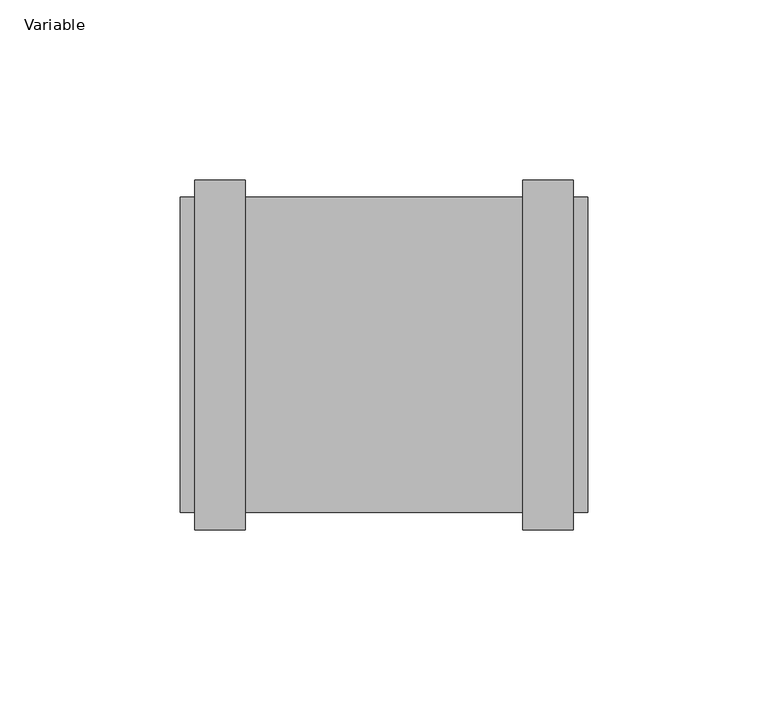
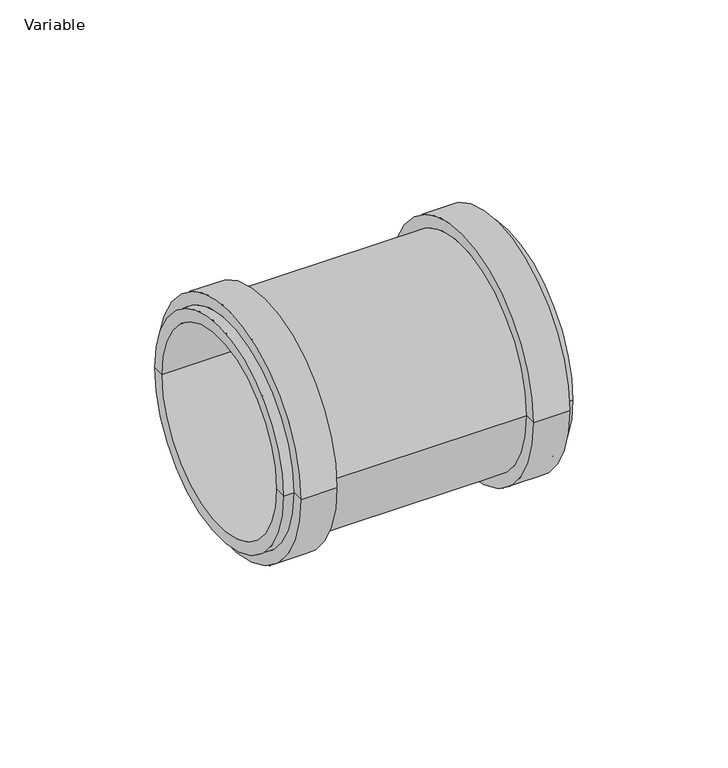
"""IFC4 building model written with IfcOpenShell, lengths in millimetres: pipe fitting geometry, AliaxisFR_Friaphon_SimpleCoupling_FR : Variable."""

from ifc_helpers import new_model, si_unit, frame, origin, place, context, project, spatial, polyline, circle_curve, source, transform, mapped, element, save
from ifc_brep_helpers import plane_surface, cylinder_surface, revolved_surface, advanced_brep


def variable_9afdab94(model_context):
    return source(origin(), model_context, "Body", "AdvancedBrep", [
        advanced_brep(
        [(58.5, -43.75, 0.0), (58.5, 43.75, 0.0), (58.5, 39.0, 0.0), (58.5, -39.0, 0.0), (54.5, -43.75, 0.0), (54.5, 43.75, 0.0), (54.5, -48.5, 0.0), (54.5, 48.5, 0.0), (40.5, -48.5, 0.0), (40.5, 48.5, 0.0), (40.5, -43.75, 0.0), (40.5, 43.75, 0.0), (-36.5, -43.75, 0.0), (-36.5, 43.75, 0.0), (-36.5, -48.5, 0.0), (-36.5, 48.5, 0.0), (-50.5, -48.5, 0.0), (-50.5, 48.5, 0.0), (-50.5, -43.75, 0.0), (-50.5, 43.75, 0.0), (-54.5, -43.75, 0.0), (-54.5, 43.75, 0.0), (-54.5, -39.0, 0.0), (-54.5, 39.0, 0.0)],
        [
            (0, 1, circle_curve(frame((58.5, 0.0, 0.0), z_axis=(1.0, 0.0, 0.0), x_axis=(0.0, 1.0, 0.0)), 43.75)),
            (1, 2),
            (2, 3, circle_curve(frame((58.5, 0.0, 0.0), z_axis=(-1.0, 0.0, 0.0), x_axis=(0.0, 1.0, 0.0)), 39.0)),
            (3, 0),
            (1, 0, circle_curve(frame((58.5, 0.0, 0.0), z_axis=(1.0, 0.0, 0.0), x_axis=(0.0, 1.0, 0.0)), 43.75)),
            (3, 2, circle_curve(frame((58.5, 0.0, 0.0), z_axis=(-1.0, 0.0, 0.0), x_axis=(0.0, 1.0, 0.0)), 39.0)),
            (4, 5, circle_curve(frame((54.5, 0.0, 0.0), z_axis=(1.0, 0.0, 0.0), x_axis=(0.0, 1.0, 0.0)), 43.75)),
            (5, 1),
            (0, 4),
            (5, 4, circle_curve(frame((54.5, 0.0, 0.0), z_axis=(1.0, 0.0, 0.0), x_axis=(0.0, 1.0, 0.0)), 43.75)),
            (6, 7, circle_curve(frame((54.5, 0.0, 0.0), z_axis=(1.0, 0.0, 0.0), x_axis=(0.0, 1.0, 0.0)), 48.5)),
            (7, 5),
            (4, 6),
            (7, 6, circle_curve(frame((54.5, 0.0, 0.0), z_axis=(1.0, 0.0, 0.0), x_axis=(0.0, 1.0, 0.0)), 48.5)),
            (8, 9, circle_curve(frame((40.5, 0.0, 0.0), z_axis=(1.0, 0.0, 0.0), x_axis=(0.0, 1.0, 0.0)), 48.5)),
            (9, 7),
            (6, 8),
            (9, 8, circle_curve(frame((40.5, 0.0, 0.0), z_axis=(1.0, 0.0, 0.0), x_axis=(0.0, 1.0, 0.0)), 48.5)),
            (10, 11, circle_curve(frame((40.5, 0.0, 0.0), z_axis=(1.0, 0.0, 0.0), x_axis=(0.0, 1.0, 0.0)), 43.75)),
            (11, 9),
            (8, 10),
            (11, 10, circle_curve(frame((40.5, 0.0, 0.0), z_axis=(1.0, 0.0, 0.0), x_axis=(0.0, 1.0, 0.0)), 43.75)),
            (12, 13, circle_curve(frame((-36.5, 0.0, 0.0), z_axis=(1.0, 0.0, 0.0), x_axis=(0.0, 1.0, 0.0)), 43.75)),
            (13, 11),
            (10, 12),
            (13, 12, circle_curve(frame((-36.5, 0.0, 0.0), z_axis=(1.0, 0.0, 0.0), x_axis=(0.0, 1.0, 0.0)), 43.75)),
            (14, 15, circle_curve(frame((-36.5, 0.0, 0.0), z_axis=(1.0, 0.0, 0.0), x_axis=(0.0, 1.0, 0.0)), 48.5)),
            (15, 13),
            (12, 14),
            (15, 14, circle_curve(frame((-36.5, 0.0, 0.0), z_axis=(1.0, 0.0, 0.0), x_axis=(0.0, 1.0, 0.0)), 48.5)),
            (16, 17, circle_curve(frame((-50.5, 0.0, 0.0), z_axis=(1.0, 0.0, 0.0), x_axis=(0.0, 1.0, 0.0)), 48.5)),
            (17, 15),
            (14, 16),
            (17, 16, circle_curve(frame((-50.5, 0.0, 0.0), z_axis=(1.0, 0.0, 0.0), x_axis=(0.0, 1.0, 0.0)), 48.5)),
            (18, 19, circle_curve(frame((-50.5, 0.0, 0.0), z_axis=(1.0, 0.0, 0.0), x_axis=(0.0, 1.0, 0.0)), 43.75)),
            (19, 17),
            (16, 18),
            (19, 18, circle_curve(frame((-50.5, 0.0, 0.0), z_axis=(1.0, 0.0, 0.0), x_axis=(0.0, 1.0, 0.0)), 43.75)),
            (20, 21, circle_curve(frame((-54.5, 0.0, 0.0), z_axis=(1.0, 0.0, 0.0), x_axis=(0.0, 1.0, 0.0)), 43.75)),
            (21, 19),
            (18, 20),
            (21, 20, circle_curve(frame((-54.5, 0.0, 0.0), z_axis=(1.0, 0.0, 0.0), x_axis=(0.0, 1.0, 0.0)), 43.75)),
            (22, 23, circle_curve(frame((-54.5, 0.0, 0.0), z_axis=(1.0, 0.0, 0.0), x_axis=(0.0, 1.0, 0.0)), 39.0)),
            (23, 21),
            (20, 22),
            (23, 22, circle_curve(frame((-54.5, 0.0, 0.0), z_axis=(1.0, 0.0, 0.0), x_axis=(0.0, 1.0, 0.0)), 39.0)),
            (2, 23),
            (22, 3),
        ],
        [
            plane_surface(frame((58.5, 0.0, 0.0), z_axis=(1.0, 0.0, 0.0), x_axis=(0.0, 1.0, 0.0))),
            cylinder_surface(frame((2006.5, 0.0, 0.0), z_axis=(-1.0, 0.0, 0.0), x_axis=(0.0, 1.0, 0.0)), 43.75),
            plane_surface(frame((54.5, 0.0, 0.0), z_axis=(1.0, 0.0, 0.0), x_axis=(0.0, 1.0, 0.0))),
            cylinder_surface(frame((2006.5, 0.0, 0.0), z_axis=(-1.0, 0.0, 0.0), x_axis=(0.0, 1.0, 0.0)), 48.5),
            plane_surface(frame((40.5, 0.0, 0.0), z_axis=(-1.0, 0.0, 0.0), x_axis=(0.0, 1.0, 0.0))),
            plane_surface(frame((-36.5, 0.0, 0.0), z_axis=(1.0, 0.0, 0.0), x_axis=(0.0, 1.0, 0.0))),
            plane_surface(frame((-50.5, 0.0, 0.0), z_axis=(-1.0, 0.0, 0.0), x_axis=(0.0, 1.0, 0.0))),
            plane_surface(frame((-54.5, 0.0, 0.0), z_axis=(-1.0, 0.0, 0.0), x_axis=(0.0, 1.0, 0.0))),
            revolved_surface(polyline([(-54.5, 39.0, 0.0), (58.5, 39.0, 0.0)]), (2006.5, 0.0, 0.0), (-1.0, 0.0, 0.0)),
        ],
        [
            (0, [[1, 2, 3, 4]]),
            (0, [[5, -4, 6, -2]]),
            (1, [[7, 8, -1, 9]]),
            (1, [[10, -9, -5, -8]]),
            (2, [[11, 12, -7, 13]]),
            (2, [[14, -13, -10, -12]]),
            (3, [[15, 16, -11, 17]]),
            (3, [[18, -17, -14, -16]]),
            (4, [[19, 20, -15, 21]]),
            (4, [[22, -21, -18, -20]]),
            (1, [[23, 24, -19, 25]]),
            (1, [[26, -25, -22, -24]]),
            (5, [[27, 28, -23, 29]]),
            (5, [[30, -29, -26, -28]]),
            (3, [[31, 32, -27, 33]]),
            (3, [[34, -33, -30, -32]]),
            (6, [[35, 36, -31, 37]]),
            (6, [[38, -37, -34, -36]]),
            (1, [[39, 40, -35, 41]]),
            (1, [[42, -41, -38, -40]]),
            (7, [[43, 44, -39, 45]]),
            (7, [[46, -45, -42, -44]]),
            (8, [[-3, 47, -43, 48]]),
            (8, [[-6, -48, -46, -47]]),
        ],
    ),
    ])


if __name__ == "__main__":
    model = new_model("IFC4")
    model_context = context("Model", 3, world=origin())
    ifc_project = project(units=[si_unit("LENGTHUNIT", "METRE", prefix="MILLI")], contexts=[model_context])
    site = spatial("IfcSite", under=ifc_project)
    building = spatial("IfcBuilding", under=site)
    placement = place(None, origin())
    variable_shape = variable_9afdab94(model_context)
    element("IfcPipeFitting", 1, ObjectType="AliaxisFR_Friaphon_SimpleCoupling_FR : Variable", at=placement, inside=building, context=model_context, shape_type="MappedRepresentation", body=[
        mapped(variable_shape, transform((0.0, 0.0, 0.0), x_axis=(1.0, 0.0, 0.0), y_axis=(0.0, 1.0, 0.0), z_axis=(0.0, 0.0, 1.0))),
    ])
    save(model, "model.ifc")
